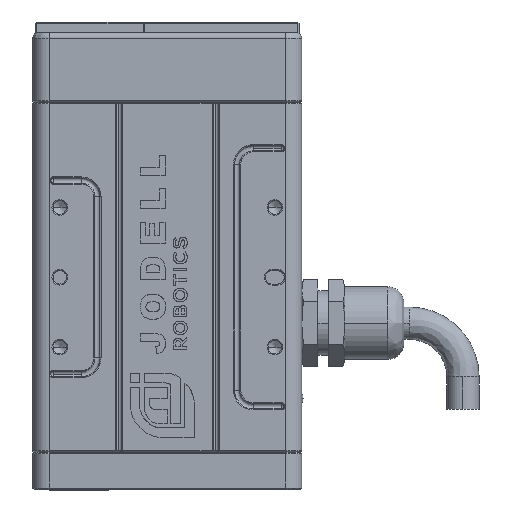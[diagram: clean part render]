
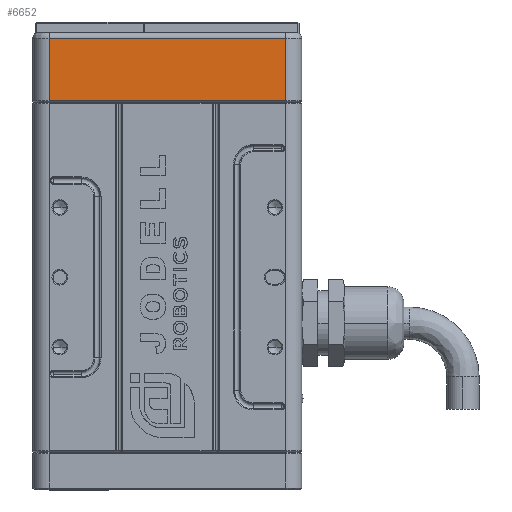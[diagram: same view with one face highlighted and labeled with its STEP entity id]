
A CAD part, top view. The second image highlights one B-rep face of the part: STEP entity #6652.
In plain terms, the highlighted planar face has unit normal (0, 0, 1).
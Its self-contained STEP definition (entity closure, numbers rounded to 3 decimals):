
#3009 = CARTESIAN_POINT ( 'NONE',  ( 0., 0.3, 17.5 ) ) ;
#3162 = LINE ( 'NONE', #3009, #35735 ) ;
#3680 = ORIENTED_EDGE ( 'NONE', *, *, #6884, .F. ) ;
#3774 = DIRECTION ( 'NONE',  ( 0., -1., 0. ) ) ;
#4350 = VECTOR ( 'NONE', #3774, 1000. ) ;
#6652 = ADVANCED_FACE ( 'NONE', ( #6920 ), #25591, .F. ) ;
#6884 = EDGE_CURVE ( 'NONE', #36965, #18075, #17854, .T. ) ;
#6920 = FACE_OUTER_BOUND ( 'NONE', #26941, .T. ) ;
#9746 = EDGE_CURVE ( 'NONE', #36965, #20254, #20265, .T. ) ;
#10451 = CARTESIAN_POINT ( 'NONE',  ( -22., 6.15, 17.5 ) ) ;
#10797 = ORIENTED_EDGE ( 'NONE', *, *, #25952, .T. ) ;
#12106 = CARTESIAN_POINT ( 'NONE',  ( 22., 12., 17.5 ) ) ;
#13695 = CARTESIAN_POINT ( 'NONE',  ( 22., 0.3, 17.5 ) ) ;
#14983 = CARTESIAN_POINT ( 'NONE',  ( 22., 6.15, 17.5 ) ) ;
#15792 = VECTOR ( 'NONE', #33731, 1000. ) ;
#15920 = DIRECTION ( 'NONE',  ( -1., 0., 0. ) ) ;
#17854 = LINE ( 'NONE', #21490, #25177 ) ;
#18075 = VERTEX_POINT ( 'NONE', #12106 ) ;
#20254 = VERTEX_POINT ( 'NONE', #30369 ) ;
#20265 = LINE ( 'NONE', #10451, #4350 ) ;
#21490 = CARTESIAN_POINT ( 'NONE',  ( 0., 12., 17.5 ) ) ;
#21581 = DIRECTION ( 'NONE',  ( 1., 0., 0. ) ) ;
#24123 = LINE ( 'NONE', #14983, #15792 ) ;
#24518 = ORIENTED_EDGE ( 'NONE', *, *, #9746, .T. ) ;
#25177 = VECTOR ( 'NONE', #21581, 1000. ) ;
#25311 = DIRECTION ( 'NONE',  ( -1., 0., 0. ) ) ;
#25337 = DIRECTION ( 'NONE',  ( 0., 0., -1. ) ) ;
#25400 = CARTESIAN_POINT ( 'NONE',  ( 22., 0.3, 17.5 ) ) ;
#25591 = PLANE ( 'NONE',  #37373 ) ;
#25952 = EDGE_CURVE ( 'NONE', #39107, #18075, #24123, .T. ) ;
#26941 = EDGE_LOOP ( 'NONE', ( #36762, #10797, #3680, #24518 ) ) ;
#30369 = CARTESIAN_POINT ( 'NONE',  ( -22., 0.3, 17.5 ) ) ;
#31277 = EDGE_CURVE ( 'NONE', #39107, #20254, #3162, .T. ) ;
#33731 = DIRECTION ( 'NONE',  ( 0., 1., 0. ) ) ;
#35735 = VECTOR ( 'NONE', #15920, 1000. ) ;
#36762 = ORIENTED_EDGE ( 'NONE', *, *, #31277, .F. ) ;
#36965 = VERTEX_POINT ( 'NONE', #40337 ) ;
#37373 = AXIS2_PLACEMENT_3D ( 'NONE', #25400, #25337, #25311 ) ;
#39107 = VERTEX_POINT ( 'NONE', #13695 ) ;
#40337 = CARTESIAN_POINT ( 'NONE',  ( -22., 12., 17.5 ) ) ;
